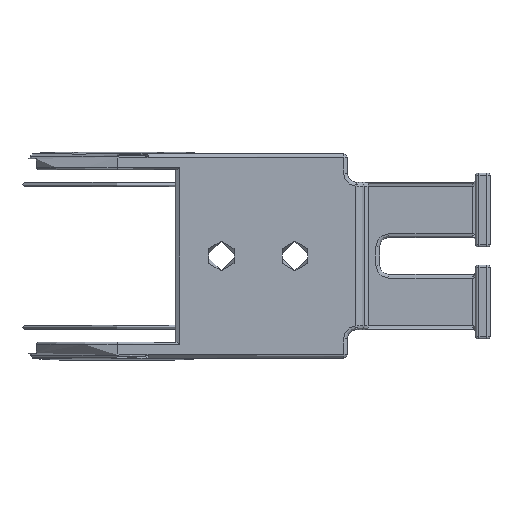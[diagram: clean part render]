
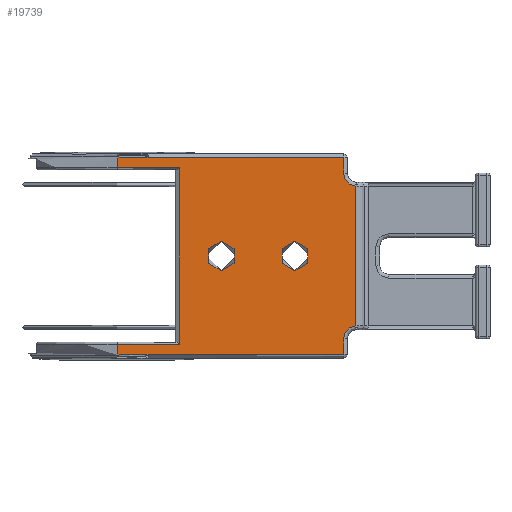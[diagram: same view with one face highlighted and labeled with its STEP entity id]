
A CAD part, front view. The second image highlights one B-rep face of the part: STEP entity #19739.
In plain terms, the highlighted planar face has unit normal (0, -1, 0).
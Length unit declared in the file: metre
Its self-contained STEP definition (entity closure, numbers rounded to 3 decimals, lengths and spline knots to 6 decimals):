
#12439=CARTESIAN_POINT('',(0.008834,-0.004805,0.039489));
#12440=VERTEX_POINT('',#12439);
#12443=CARTESIAN_POINT('',(-0.005766,-0.004805,0.039489));
#12444=DIRECTION('',(-1.,0.,0.));
#12445=VECTOR('',#12444,1.);
#12446=LINE('',#12443,#12445);
#12447=CARTESIAN_POINT('',(-0.012425,-0.004805,0.039489));
#12448=VERTEX_POINT('',#12447);
#12449=EDGE_CURVE('',#12440,#12448,#12446,.T.);
#12631=CARTESIAN_POINT('',(-0.015766,-0.004805,0.03943));
#12632=VERTEX_POINT('',#12631);
#12665=CARTESIAN_POINT('',(-0.015766,-0.004805,0.040589));
#12666=VERTEX_POINT('',#12665);
#12669=CARTESIAN_POINT('',(-0.015766,-0.004805,0.040589));
#12670=DIRECTION('',(1.,0.,0.));
#12671=VECTOR('',#12670,1.);
#12672=LINE('',#12669,#12671);
#12673=CARTESIAN_POINT('',(-0.008966,-0.004805,0.040589));
#12674=VERTEX_POINT('',#12673);
#12675=EDGE_CURVE('',#12666,#12674,#12672,.T.);
#13465=CARTESIAN_POINT('',(-0.015766,-0.004805,0.059789));
#13466=VERTEX_POINT('',#13465);
#13507=CARTESIAN_POINT('',(-0.008966,-0.004805,0.059789));
#13508=VERTEX_POINT('',#13507);
#13511=CARTESIAN_POINT('',(-0.005766,-0.004805,0.059789));
#13512=DIRECTION('',(1.,0.,0.));
#13513=VECTOR('',#13512,1.);
#13514=LINE('',#13511,#13513);
#13515=EDGE_CURVE('',#13466,#13508,#13514,.T.);
#14026=CARTESIAN_POINT('',(-0.005766,-0.004805,0.042689));
#14027=DIRECTION('',(0.,1.,0.));
#14028=DIRECTION('',(0.,0.,1.));
#14029=AXIS2_PLACEMENT_3D('',#14026,#14027,#14028);
#14030=PLANE('',#14029);
#15249=CARTESIAN_POINT('',(0.008834,-0.004805,0.041189));
#15250=VERTEX_POINT('',#15249);
#15259=CARTESIAN_POINT('',(0.010139,-0.004805,0.042586));
#15260=VERTEX_POINT('',#15259);
#15263=CARTESIAN_POINT('',(0.010234,-0.004805,0.041189));
#15264=DIRECTION('',(0.,1.,0.));
#15265=DIRECTION('',(0.,0.,1.));
#15266=AXIS2_PLACEMENT_3D('',#15263,#15264,#15265);
#15267=CIRCLE('',#15266,0.0014);
#15268=EDGE_CURVE('',#15250,#15260,#15267,.T.);
#15307=CARTESIAN_POINT('',(0.010139,-0.004805,0.057792));
#15308=VERTEX_POINT('',#15307);
#15311=CARTESIAN_POINT('',(0.010139,-0.004805,0.042689));
#15312=DIRECTION('',(0.,0.,-1.));
#15313=VECTOR('',#15312,1.);
#15314=LINE('',#15311,#15313);
#15315=EDGE_CURVE('',#15308,#15260,#15314,.T.);
#18373=CARTESIAN_POINT('',(0.008834,-0.004805,0.060889));
#18374=VERTEX_POINT('',#18373);
#18410=CARTESIAN_POINT('',(-0.012425,-0.004805,0.060889));
#18411=VERTEX_POINT('',#18410);
#18414=CARTESIAN_POINT('',(-0.013772,-0.004805,0.060889));
#18415=DIRECTION('',(1.,0.,0.));
#18416=VECTOR('',#18415,1.);
#18417=LINE('',#18414,#18416);
#18418=EDGE_CURVE('',#18411,#18374,#18417,.T.);
#18600=CARTESIAN_POINT('',(0.008834,-0.004805,0.061289));
#18601=DIRECTION('',(0.,0.,1.));
#18602=VECTOR('',#18601,1.);
#18603=LINE('',#18600,#18602);
#18604=CARTESIAN_POINT('',(0.008834,-0.004805,0.059189));
#18605=VERTEX_POINT('',#18604);
#18606=EDGE_CURVE('',#18605,#18374,#18603,.T.);
#18632=CARTESIAN_POINT('',(0.010234,-0.004805,0.059189));
#18633=DIRECTION('',(0.,1.,0.));
#18634=DIRECTION('',(0.,0.,1.));
#18635=AXIS2_PLACEMENT_3D('',#18632,#18633,#18634);
#18636=CIRCLE('',#18635,0.0014);
#18637=EDGE_CURVE('',#15308,#18605,#18636,.T.);
#19531=CARTESIAN_POINT('',(-0.004466,-0.004805,0.050189));
#19532=DIRECTION('',(0.,1.,0.));
#19533=DIRECTION('',(0.,0.,1.));
#19534=AXIS2_PLACEMENT_3D('',#19531,#19532,#19533);
#19535=CIRCLE('',#19534,0.0016);
#19536=CARTESIAN_POINT('',(-0.004466,-0.004805,0.048589));
#19537=VERTEX_POINT('',#19536);
#19538=EDGE_CURVE('',#19537,#19537,#19535,.T.);
#19649=CARTESIAN_POINT('',(0.003534,-0.004805,0.050189));
#19650=DIRECTION('',(0.,1.,0.));
#19651=DIRECTION('',(0.,0.,1.));
#19652=AXIS2_PLACEMENT_3D('',#19649,#19650,#19651);
#19653=CIRCLE('',#19652,0.0016);
#19654=CARTESIAN_POINT('',(0.003534,-0.004805,0.048589));
#19655=VERTEX_POINT('',#19654);
#19656=EDGE_CURVE('',#19655,#19655,#19653,.T.);
#19669=ORIENTED_EDGE('',*,*,#19656,.T.);
#19670=EDGE_LOOP('',(#19669));
#19671=FACE_BOUND('',#19670,.T.);
#19672=ORIENTED_EDGE('',*,*,#19538,.T.);
#19673=EDGE_LOOP('',(#19672));
#19674=FACE_BOUND('',#19673,.T.);
#19675=CARTESIAN_POINT('',(-0.015766,-0.004805,0.061289));
#19676=DIRECTION('',(0.,0.,-1.));
#19677=VECTOR('',#19676,1.);
#19678=LINE('',#19675,#19677);
#19679=CARTESIAN_POINT('',(-0.015766,-0.004805,0.060948));
#19680=VERTEX_POINT('',#19679);
#19681=EDGE_CURVE('',#19680,#13466,#19678,.T.);
#19682=ORIENTED_EDGE('',*,*,#19681,.T.);
#19683=ORIENTED_EDGE('',*,*,#13515,.T.);
#19684=CARTESIAN_POINT('',(-0.008966,-0.004805,0.042689));
#19685=DIRECTION('',(0.,0.,-1.));
#19686=VECTOR('',#19685,1.);
#19687=LINE('',#19684,#19686);
#19688=EDGE_CURVE('',#13508,#12674,#19687,.T.);
#19689=ORIENTED_EDGE('',*,*,#19688,.T.);
#19690=ORIENTED_EDGE('',*,*,#12675,.F.);
#19691=CARTESIAN_POINT('',(-0.015766,-0.004805,0.042689));
#19692=DIRECTION('',(0.,0.,-1.));
#19693=VECTOR('',#19692,1.);
#19694=LINE('',#19691,#19693);
#19695=EDGE_CURVE('',#12666,#12632,#19694,.T.);
#19696=ORIENTED_EDGE('',*,*,#19695,.T.);
#19697=CARTESIAN_POINT('',(-0.015766,-0.004805,0.03943));
#19698=DIRECTION('',(1.,0.,0.014));
#19699=VECTOR('',#19698,1.);
#19700=LINE('',#19697,#19699);
#19701=CARTESIAN_POINT('',(-0.013087,-0.004805,0.039468));
#19702=VERTEX_POINT('',#19701);
#19703=EDGE_CURVE('',#12632,#19702,#19700,.T.);
#19704=ORIENTED_EDGE('',*,*,#19703,.T.);
#19705=CARTESIAN_POINT('',(-0.013087,-0.004805,0.039468));
#19706=DIRECTION('',(0.999,0.,0.032));
#19707=VECTOR('',#19706,1.);
#19708=LINE('',#19705,#19707);
#19709=EDGE_CURVE('',#19702,#12448,#19708,.T.);
#19710=ORIENTED_EDGE('',*,*,#19709,.T.);
#19711=ORIENTED_EDGE('',*,*,#12449,.F.);
#19712=CARTESIAN_POINT('',(0.008834,-0.004805,0.041189));
#19713=DIRECTION('',(0.,0.,1.));
#19714=VECTOR('',#19713,1.);
#19715=LINE('',#19712,#19714);
#19716=EDGE_CURVE('',#12440,#15250,#19715,.T.);
#19717=ORIENTED_EDGE('',*,*,#19716,.T.);
#19718=ORIENTED_EDGE('',*,*,#15268,.T.);
#19719=ORIENTED_EDGE('',*,*,#15315,.F.);
#19720=ORIENTED_EDGE('',*,*,#18637,.T.);
#19721=ORIENTED_EDGE('',*,*,#18606,.T.);
#19722=ORIENTED_EDGE('',*,*,#18418,.F.);
#19723=CARTESIAN_POINT('',(-0.012425,-0.004805,0.060889));
#19724=DIRECTION('',(-0.999,0.,0.032));
#19725=VECTOR('',#19724,1.);
#19726=LINE('',#19723,#19725);
#19727=CARTESIAN_POINT('',(-0.013087,-0.004805,0.06091));
#19728=VERTEX_POINT('',#19727);
#19729=EDGE_CURVE('',#18411,#19728,#19726,.T.);
#19730=ORIENTED_EDGE('',*,*,#19729,.T.);
#19731=CARTESIAN_POINT('',(-0.013087,-0.004805,0.06091));
#19732=DIRECTION('',(-1.,0.,0.014));
#19733=VECTOR('',#19732,1.);
#19734=LINE('',#19731,#19733);
#19735=EDGE_CURVE('',#19728,#19680,#19734,.T.);
#19736=ORIENTED_EDGE('',*,*,#19735,.T.);
#19737=EDGE_LOOP('',(#19682,#19683,#19689,#19690,#19696,#19704,#19710,#19711,#19717,#19718,#19719,#19720,#19721,#19722,#19730,#19736));
#19738=FACE_BOUND('',#19737,.T.);
#19739=ADVANCED_FACE('',(#19671,#19674,#19738),#14030,.F.);
